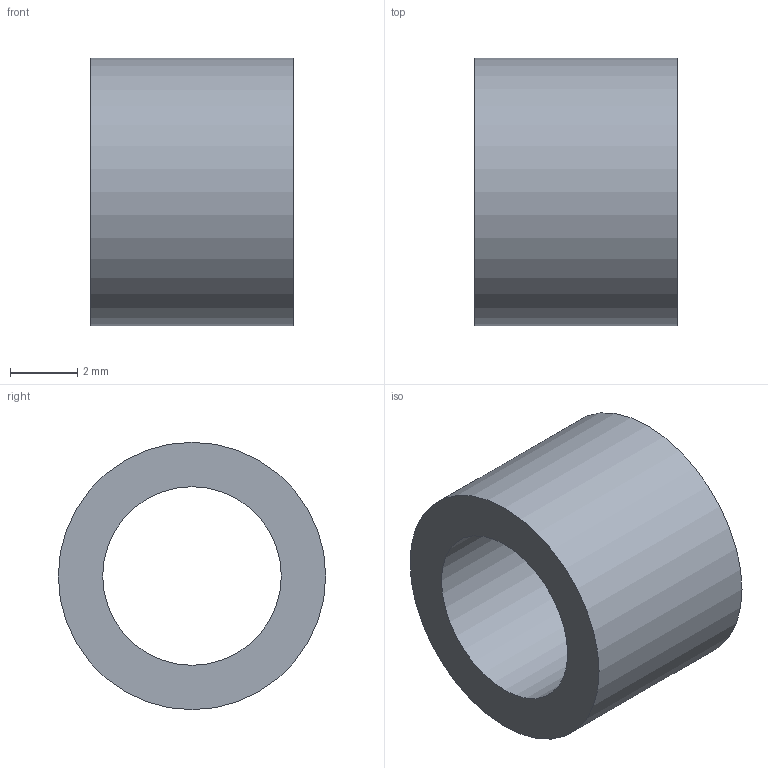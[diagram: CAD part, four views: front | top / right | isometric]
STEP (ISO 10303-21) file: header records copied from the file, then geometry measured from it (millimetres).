
FILE_DESCRIPTION(/* description */ ('STEP AP242 Edition 2','CAx-IF Rec.Pracs.---Representation and Presentation of Product Manufacturing Information (PMI)---4.0---2014-10-13','CAx-IF Rec.Pracs.---3D Tessellated Geometry---0.4---2014-09-14','2;1','CAx-IF Rec.Pracs.---User Defined Attributes---1.5---2016-08-15'),/* implementation_level */ '2;1');
FILE_NAME(/* name */ 'Final Build - Spacer_3',/* time_stamp */ '2026-08-31T23:26:27Z',/* author */ (''),/* organization */ (''),/* preprocessor_version */ 'ST-DEVELOPER v20',/* originating_system */ 'ONSHAPE BY PTC INC, 1.220',/* authorisation */ ' ');
FILE_SCHEMA (('AP242_MANAGED_MODEL_BASED_3D_ENGINEERING_MIM_LF { 1 0 10303 442 3 1 4 }'));
Length unit declared in the file: metre
Products named in the file (1): Spacer_3
Bounding box: 6 x 7.94 x 7.94 mm (x, y, z)
Volume: 164.5 mm3; surface area: 304.4 mm2
Topology: 1 solids, 1 shells, 4 faces, 8 edges, 6 vertices
Faces by surface type: cylinder 2, plane 2
Full cylindrical faces by diameter (mm): 5.3 x1, 7.938 x1
Entity records: 110 total; most frequent: DIRECTION 18, CARTESIAN_POINT 13, AXIS2_PLACEMENT_3D 9, ORIENTED_EDGE 8, EDGE_LOOP 8, FACE_BOUND 8, EDGE_CURVE 4, VERTEX_POINT 4
